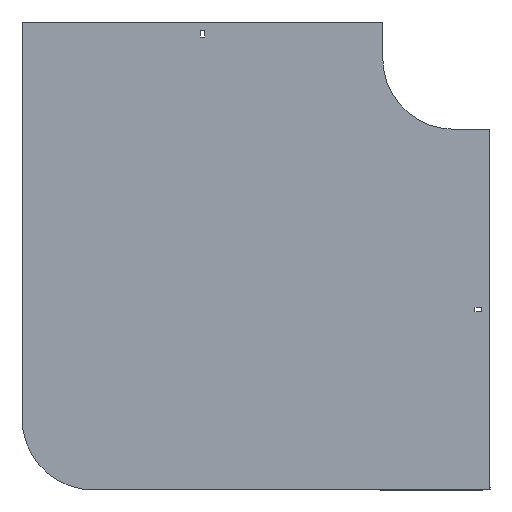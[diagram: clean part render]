
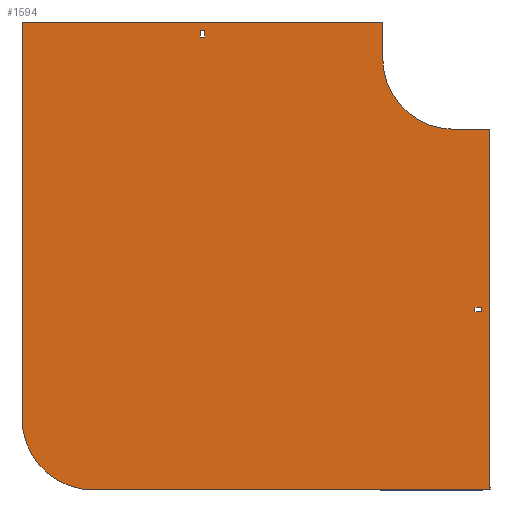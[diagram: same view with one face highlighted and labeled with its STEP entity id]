
A CAD part, front view. The second image highlights one B-rep face of the part: STEP entity #1594.
In plain terms, the highlighted planar face has unit normal (0, -1, 0).
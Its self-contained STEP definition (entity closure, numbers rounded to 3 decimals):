
#16 = CARTESIAN_POINT ( 'NONE',  ( -100., 0., 0. ) ) ;
#27 = EDGE_LOOP ( 'NONE', ( #94, #570, #1165, #767 ) ) ;
#36 = EDGE_CURVE ( 'NONE', #1401, #820, #1645, .T. ) ;
#41 = VERTEX_POINT ( 'NONE', #1015 ) ;
#48 = LINE ( 'NONE', #645, #1774 ) ;
#50 = CARTESIAN_POINT ( 'NONE',  ( 38., 0., -348.75 ) ) ;
#59 = VECTOR ( 'NONE', #720, 1000. ) ;
#94 = ORIENTED_EDGE ( 'NONE', *, *, #830, .F. ) ;
#95 = VERTEX_POINT ( 'NONE', #1939 ) ;
#96 = CARTESIAN_POINT ( 'NONE',  ( -355.25, 0., 29. ) ) ;
#116 = CARTESIAN_POINT ( 'NONE',  ( 0., 0., -100. ) ) ;
#140 = LINE ( 'NONE', #1194, #1684 ) ;
#151 = EDGE_CURVE ( 'NONE', #284, #828, #1132, .T. ) ;
#176 = DIRECTION ( 'NONE',  ( 0., 0., -1. ) ) ;
#180 = DIRECTION ( 'NONE',  ( 0., 0., -1. ) ) ;
#195 = CARTESIAN_POINT ( 'NONE',  ( -355.25, 0., 38. ) ) ;
#206 = ORIENTED_EDGE ( 'NONE', *, *, #229, .F. ) ;
#214 = CARTESIAN_POINT ( 'NONE',  ( -604., 0., 50. ) ) ;
#216 = VECTOR ( 'NONE', #541, 1000. ) ;
#223 = EDGE_LOOP ( 'NONE', ( #1032, #246, #1133, #609, #1722, #291, #206, #1546 ) ) ;
#229 = EDGE_CURVE ( 'NONE', #682, #233, #314, .T. ) ;
#233 = VERTEX_POINT ( 'NONE', #1369 ) ;
#236 = VERTEX_POINT ( 'NONE', #1224 ) ;
#246 = ORIENTED_EDGE ( 'NONE', *, *, #867, .F. ) ;
#272 = CARTESIAN_POINT ( 'NONE',  ( -355.25, 0., 29. ) ) ;
#284 = VERTEX_POINT ( 'NONE', #50 ) ;
#285 = LINE ( 'NONE', #293, #1704 ) ;
#287 = LINE ( 'NONE', #116, #1903 ) ;
#291 = ORIENTED_EDGE ( 'NONE', *, *, #942, .F. ) ;
#293 = CARTESIAN_POINT ( 'NONE',  ( -348.75, 0., 29. ) ) ;
#314 = CIRCLE ( 'NONE', #1012, 100. ) ;
#318 = CARTESIAN_POINT ( 'NONE',  ( 29., 0., -355.25 ) ) ;
#319 = DIRECTION ( 'NONE',  ( 0., -1., 0. ) ) ;
#341 = VERTEX_POINT ( 'NONE', #595 ) ;
#409 = CARTESIAN_POINT ( 'NONE',  ( -604., 0., -504. ) ) ;
#430 = EDGE_CURVE ( 'NONE', #236, #735, #1699, .T. ) ;
#490 = CARTESIAN_POINT ( 'NONE',  ( 50., 0., -100. ) ) ;
#541 = DIRECTION ( 'NONE',  ( 1., 0., 0. ) ) ;
#547 = DIRECTION ( 'NONE',  ( -1., 0., 0. ) ) ;
#570 = ORIENTED_EDGE ( 'NONE', *, *, #430, .F. ) ;
#583 = CARTESIAN_POINT ( 'NONE',  ( -100., 0., 50. ) ) ;
#590 = VECTOR ( 'NONE', #547, 1000. ) ;
#595 = CARTESIAN_POINT ( 'NONE',  ( -348.75, 0., 38. ) ) ;
#609 = ORIENTED_EDGE ( 'NONE', *, *, #1661, .F. ) ;
#610 = DIRECTION ( 'NONE',  ( 0., 0., -1. ) ) ;
#620 = EDGE_CURVE ( 'NONE', #341, #95, #285, .T. ) ;
#623 = VERTEX_POINT ( 'NONE', #1936 ) ;
#636 = LINE ( 'NONE', #1241, #1667 ) ;
#645 = CARTESIAN_POINT ( 'NONE',  ( -604., 0., -504. ) ) ;
#663 = ORIENTED_EDGE ( 'NONE', *, *, #1156, .T. ) ;
#679 = ORIENTED_EDGE ( 'NONE', *, *, #1463, .T. ) ;
#682 = VERTEX_POINT ( 'NONE', #16 ) ;
#710 = LINE ( 'NONE', #583, #59 ) ;
#720 = DIRECTION ( 'NONE',  ( 0., 0., -1. ) ) ;
#721 = EDGE_CURVE ( 'NONE', #623, #1519, #1171, .T. ) ;
#735 = VERTEX_POINT ( 'NONE', #1084 ) ;
#738 = DIRECTION ( 'NONE',  ( -1., 0., 0. ) ) ;
#745 = EDGE_CURVE ( 'NONE', #1709, #1353, #967, .T. ) ;
#754 = CARTESIAN_POINT ( 'NONE',  ( 50., 0., -100. ) ) ;
#767 = ORIENTED_EDGE ( 'NONE', *, *, #151, .F. ) ;
#785 = LINE ( 'NONE', #1267, #1778 ) ;
#805 = DIRECTION ( 'NONE',  ( 0., 1., 0. ) ) ;
#806 = VECTOR ( 'NONE', #176, 1000. ) ;
#808 = CARTESIAN_POINT ( 'NONE',  ( 29., 0., -348.75 ) ) ;
#820 = VERTEX_POINT ( 'NONE', #195 ) ;
#828 = VERTEX_POINT ( 'NONE', #1596 ) ;
#830 = EDGE_CURVE ( 'NONE', #735, #284, #785, .T. ) ;
#860 = EDGE_CURVE ( 'NONE', #1741, #41, #636, .T. ) ;
#867 = EDGE_CURVE ( 'NONE', #1519, #1741, #48, .T. ) ;
#918 = CARTESIAN_POINT ( 'NONE',  ( -355.25, 0., 29. ) ) ;
#936 = DIRECTION ( 'NONE',  ( 1., 0., 0. ) ) ;
#942 = EDGE_CURVE ( 'NONE', #233, #1709, #287, .T. ) ;
#953 = EDGE_CURVE ( 'NONE', #41, #682, #710, .T. ) ;
#954 = VECTOR ( 'NONE', #1775, 1000. ) ;
#967 = LINE ( 'NONE', #490, #1418 ) ;
#975 = EDGE_CURVE ( 'NONE', #828, #236, #1327, .T. ) ;
#976 = FACE_OUTER_BOUND ( 'NONE', #223, .T. ) ;
#1012 = AXIS2_PLACEMENT_3D ( 'NONE', #1836, #1621, #1380 ) ;
#1015 = CARTESIAN_POINT ( 'NONE',  ( -100., 0., 50. ) ) ;
#1020 = LINE ( 'NONE', #1370, #216 ) ;
#1032 = ORIENTED_EDGE ( 'NONE', *, *, #860, .F. ) ;
#1034 = CARTESIAN_POINT ( 'NONE',  ( 0., 0., 0. ) ) ;
#1073 = CARTESIAN_POINT ( 'NONE',  ( 50., 0., -604. ) ) ;
#1084 = CARTESIAN_POINT ( 'NONE',  ( 38., 0., -355.25 ) ) ;
#1085 = ORIENTED_EDGE ( 'NONE', *, *, #36, .T. ) ;
#1119 = VECTOR ( 'NONE', #1751, 1000. ) ;
#1132 = LINE ( 'NONE', #808, #590 ) ;
#1133 = ORIENTED_EDGE ( 'NONE', *, *, #721, .F. ) ;
#1135 = FACE_BOUND ( 'NONE', #1523, .T. ) ;
#1156 = EDGE_CURVE ( 'NONE', #820, #341, #1020, .T. ) ;
#1165 = ORIENTED_EDGE ( 'NONE', *, *, #975, .F. ) ;
#1171 = CIRCLE ( 'NONE', #1195, 100. ) ;
#1194 = CARTESIAN_POINT ( 'NONE',  ( 50., 0., -604. ) ) ;
#1195 = AXIS2_PLACEMENT_3D ( 'NONE', #1233, #805, #1735 ) ;
#1199 = ORIENTED_EDGE ( 'NONE', *, *, #620, .T. ) ;
#1224 = CARTESIAN_POINT ( 'NONE',  ( 29., 0., -355.25 ) ) ;
#1233 = CARTESIAN_POINT ( 'NONE',  ( -504., 0., -504. ) ) ;
#1241 = CARTESIAN_POINT ( 'NONE',  ( -604., 0., 50. ) ) ;
#1251 = DIRECTION ( 'NONE',  ( 0., 0., 1. ) ) ;
#1267 = CARTESIAN_POINT ( 'NONE',  ( 38., 0., -355.25 ) ) ;
#1327 = LINE ( 'NONE', #318, #806 ) ;
#1353 = VERTEX_POINT ( 'NONE', #1073 ) ;
#1369 = CARTESIAN_POINT ( 'NONE',  ( 0., 0., -100. ) ) ;
#1370 = CARTESIAN_POINT ( 'NONE',  ( -355.25, 0., 38. ) ) ;
#1380 = DIRECTION ( 'NONE',  ( 0., 0., -1. ) ) ;
#1401 = VERTEX_POINT ( 'NONE', #918 ) ;
#1407 = AXIS2_PLACEMENT_3D ( 'NONE', #1034, #319, #1800 ) ;
#1418 = VECTOR ( 'NONE', #180, 1000. ) ;
#1436 = CARTESIAN_POINT ( 'NONE',  ( 29., 0., -355.25 ) ) ;
#1448 = LINE ( 'NONE', #96, #1119 ) ;
#1463 = EDGE_CURVE ( 'NONE', #95, #1401, #1448, .T. ) ;
#1519 = VERTEX_POINT ( 'NONE', #409 ) ;
#1523 = EDGE_LOOP ( 'NONE', ( #1085, #663, #1199, #679 ) ) ;
#1546 = ORIENTED_EDGE ( 'NONE', *, *, #953, .F. ) ;
#1583 = PLANE ( 'NONE',  #1407 ) ;
#1594 = ADVANCED_FACE ( 'NONE', ( #1135, #976, #1595 ), #1583, .T. ) ;
#1595 = FACE_BOUND ( 'NONE', #27, .T. ) ;
#1596 = CARTESIAN_POINT ( 'NONE',  ( 29., 0., -348.75 ) ) ;
#1615 = DIRECTION ( 'NONE',  ( 1., 0., 0. ) ) ;
#1621 = DIRECTION ( 'NONE',  ( 0., -1., 0. ) ) ;
#1645 = LINE ( 'NONE', #272, #954 ) ;
#1661 = EDGE_CURVE ( 'NONE', #1353, #623, #140, .T. ) ;
#1667 = VECTOR ( 'NONE', #1855, 1000. ) ;
#1684 = VECTOR ( 'NONE', #738, 1000. ) ;
#1699 = LINE ( 'NONE', #1436, #1894 ) ;
#1704 = VECTOR ( 'NONE', #610, 1000. ) ;
#1709 = VERTEX_POINT ( 'NONE', #754 ) ;
#1722 = ORIENTED_EDGE ( 'NONE', *, *, #745, .F. ) ;
#1735 = DIRECTION ( 'NONE',  ( 0., 0., 1. ) ) ;
#1741 = VERTEX_POINT ( 'NONE', #214 ) ;
#1751 = DIRECTION ( 'NONE',  ( -1., 0., 0. ) ) ;
#1774 = VECTOR ( 'NONE', #1865, 1000. ) ;
#1775 = DIRECTION ( 'NONE',  ( 0., 0., 1. ) ) ;
#1778 = VECTOR ( 'NONE', #1251, 1000. ) ;
#1800 = DIRECTION ( 'NONE',  ( 0., 0., -1. ) ) ;
#1836 = CARTESIAN_POINT ( 'NONE',  ( 0., 0., 0. ) ) ;
#1855 = DIRECTION ( 'NONE',  ( 1., 0., 0. ) ) ;
#1865 = DIRECTION ( 'NONE',  ( 0., 0., 1. ) ) ;
#1894 = VECTOR ( 'NONE', #936, 1000. ) ;
#1903 = VECTOR ( 'NONE', #1615, 1000. ) ;
#1936 = CARTESIAN_POINT ( 'NONE',  ( -504., 0., -604. ) ) ;
#1939 = CARTESIAN_POINT ( 'NONE',  ( -348.75, 0., 29. ) ) ;
